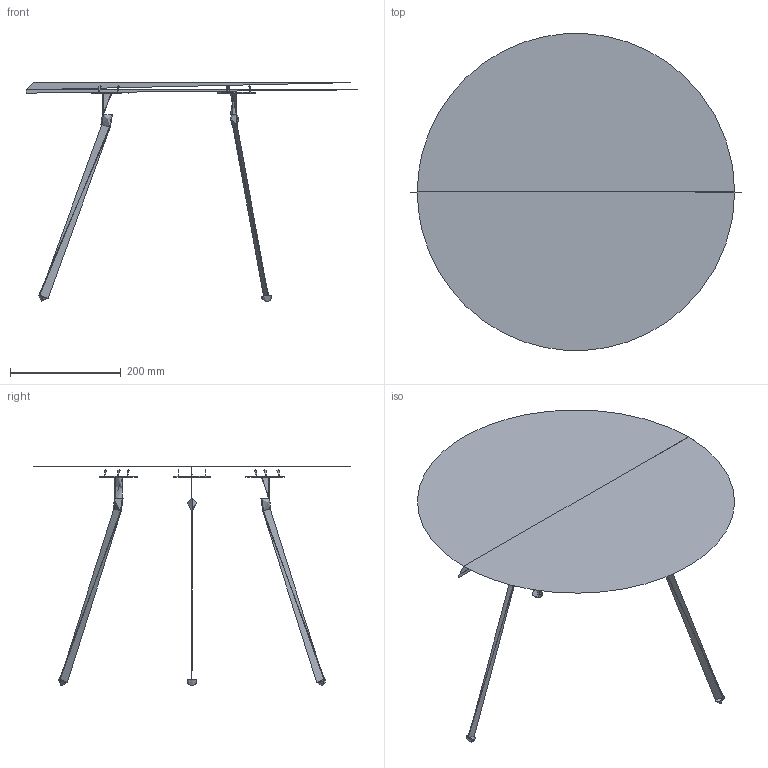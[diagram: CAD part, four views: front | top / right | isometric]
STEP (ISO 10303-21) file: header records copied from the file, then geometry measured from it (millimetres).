
FILE_DESCRIPTION(/* description */ (''),/* implementation_level */ '2;1');
FILE_NAME(/* name */ '110521_Soround',/* time_stamp */ '2019-09-26T08:57:36+02:00',/* author */ (''),/* organization */ (''),/* preprocessor_version */ 'ST-DEVELOPER v15',/* originating_system */ '',/* authorisation */ '');
FILE_SCHEMA (('AUTOMOTIVE_DESIGN'));
Length unit declared in the file: millimetre
Products named in the file (1): Document
Bounding box: 600 x 572.96 x 395.83 mm (x, y, z)
Surface area: 729748.3 mm2 (no closed solid volume)
Topology: 0 solids, 189 shells, 189 faces, 1969 edges, 2261 vertices
Faces by surface type: bspline 160, plane 29
Entity records: 23994 total; most frequent: CARTESIAN_POINT 10459, COLOUR_RGB 1666, PRESENTATION_STYLE_ASSIGNMENT 1666, STYLED_ITEM 1666, PRESENTATION_LAYER_ASSIGNMENT 1666, CURVE_STYLE 1477, DIRECTION 611, VECTOR 576
